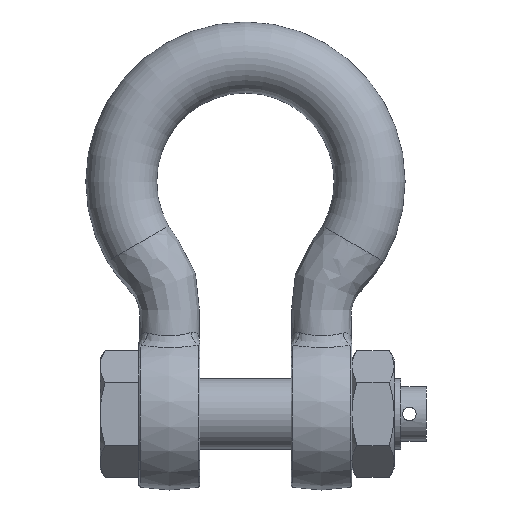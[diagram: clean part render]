
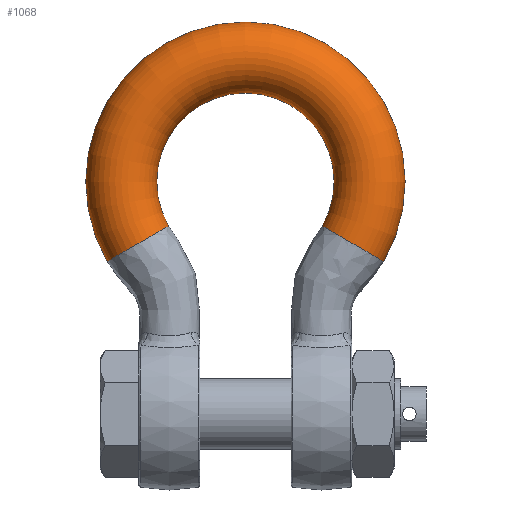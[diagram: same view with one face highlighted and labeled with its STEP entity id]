
A CAD part, top view. The second image highlights one B-rep face of the part: STEP entity #1068.
In plain terms, the highlighted toroidal (fillet/blend) face has major radius 73.5 mm and minor radius 21 mm.
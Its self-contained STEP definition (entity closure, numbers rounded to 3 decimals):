
#126=TOROIDAL_SURFACE('',#1217,73.5,21.);
#194=FACE_OUTER_BOUND('',#265,.T.);
#265=EDGE_LOOP('',(#844,#845,#846,#847,#848,#849));
#401=CIRCLE('',#1218,21.);
#402=CIRCLE('',#1219,21.);
#403=CIRCLE('',#1220,52.5);
#404=CIRCLE('',#1221,21.);
#405=CIRCLE('',#1222,21.);
#482=VERTEX_POINT('',#3054);
#483=VERTEX_POINT('',#3055);
#484=VERTEX_POINT('',#3058);
#485=VERTEX_POINT('',#3060);
#611=EDGE_CURVE('',#482,#483,#401,.T.);
#612=EDGE_CURVE('',#483,#482,#402,.T.);
#613=EDGE_CURVE('',#483,#484,#403,.T.);
#614=EDGE_CURVE('',#484,#485,#404,.T.);
#615=EDGE_CURVE('',#485,#484,#405,.T.);
#844=ORIENTED_EDGE('',*,*,#611,.F.);
#845=ORIENTED_EDGE('',*,*,#612,.F.);
#846=ORIENTED_EDGE('',*,*,#613,.T.);
#847=ORIENTED_EDGE('',*,*,#614,.T.);
#848=ORIENTED_EDGE('',*,*,#615,.T.);
#849=ORIENTED_EDGE('',*,*,#613,.F.);
#1068=ADVANCED_FACE('',(#194),#126,.T.);
#1217=AXIS2_PLACEMENT_3D('',#3053,#1402,#1403);
#1218=AXIS2_PLACEMENT_3D('',#3056,#1404,#1405);
#1219=AXIS2_PLACEMENT_3D('',#3057,#1406,#1407);
#1220=AXIS2_PLACEMENT_3D('',#3059,#1408,#1409);
#1221=AXIS2_PLACEMENT_3D('',#3061,#1410,#1411);
#1222=AXIS2_PLACEMENT_3D('',#3062,#1412,#1413);
#1402=DIRECTION('center_axis',(0.,0.,1.));
#1403=DIRECTION('ref_axis',(0.,1.,0.));
#1404=DIRECTION('center_axis',(0.5,-0.866,0.));
#1405=DIRECTION('ref_axis',(-0.866,-0.5,0.));
#1406=DIRECTION('center_axis',(0.5,-0.866,0.));
#1407=DIRECTION('ref_axis',(-0.866,-0.5,0.));
#1408=DIRECTION('center_axis',(0.,0.,-1.));
#1409=DIRECTION('ref_axis',(0.,1.,0.));
#1410=DIRECTION('center_axis',(0.5,0.866,0.));
#1411=DIRECTION('ref_axis',(0.866,-0.5,0.));
#1412=DIRECTION('center_axis',(0.5,0.866,0.));
#1413=DIRECTION('ref_axis',(0.866,-0.5,0.));
#3053=CARTESIAN_POINT('Origin',(0.,137.5,0.));
#3054=CARTESIAN_POINT('',(-81.839,90.25,0.));
#3055=CARTESIAN_POINT('',(-45.466,111.25,0.));
#3056=CARTESIAN_POINT('Origin',(-63.653,100.75,0.));
#3057=CARTESIAN_POINT('Origin',(-63.653,100.75,0.));
#3058=CARTESIAN_POINT('',(45.466,111.25,0.));
#3059=CARTESIAN_POINT('Origin',(0.,137.5,0.));
#3060=CARTESIAN_POINT('',(81.839,90.25,0.));
#3061=CARTESIAN_POINT('Origin',(63.653,100.75,0.));
#3062=CARTESIAN_POINT('Origin',(63.653,100.75,0.));
